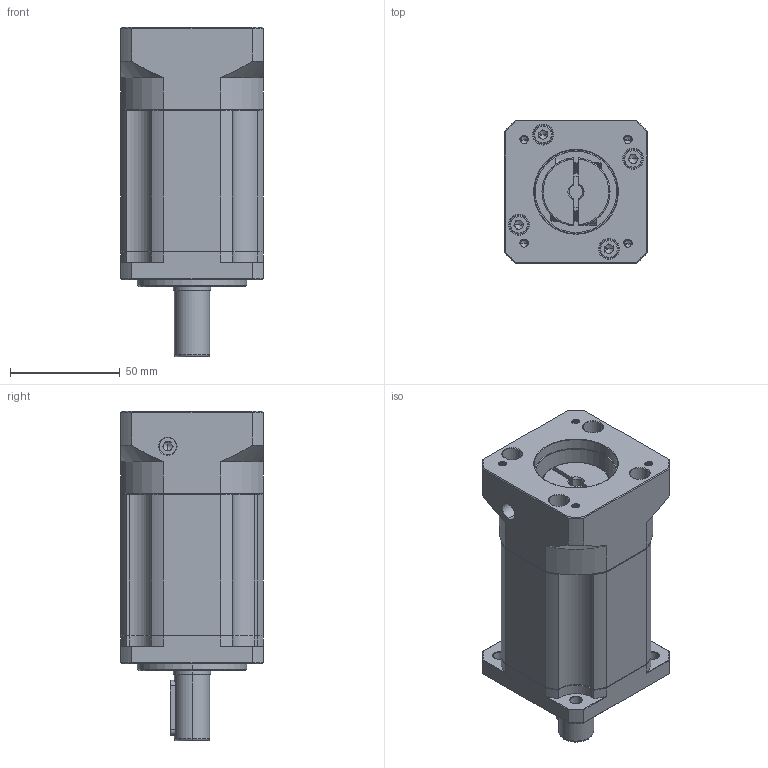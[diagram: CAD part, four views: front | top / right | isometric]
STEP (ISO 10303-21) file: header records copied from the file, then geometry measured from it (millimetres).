
FILE_DESCRIPTION (( 'STEP AP214' ), '1' );
FILE_NAME ('ZB60-D16-L3-6.35-38.1-47.14X47.14-M4.STEP', '2022-04-16T14:42:08', ( '' ), ( 'Microsoft' ), 'SwSTEP 2.0', 'SolidWorks 2016', '' );
FILE_SCHEMA (( 'AUTOMOTIVE_DESIGN' ));
Length unit declared in the file: millimetre
Products named in the file (1): ZB60-D16-L3-6.35-38.1-47.14X47.14-M4
Bounding box: 65 x 65 x 150 mm (x, y, z)
Volume: 396513.4 mm3; surface area: 62447.5 mm2
Topology: 6 solids, 6 shells, 1876 faces, 4981 edges, 3188 vertices
Faces by surface type: plane 879, cylinder 381, bspline 299, cone 283, torus 34
Entity records: 98911 total; most frequent: CARTESIAN_POINT 34084, ORIENTED_EDGE 9902, DIRECTION 8107, EDGE_CURVE 4951, VERTEX_POINT 3188, LINE 3013, VECTOR 3013, AXIS2_PLACEMENT_3D 2547
